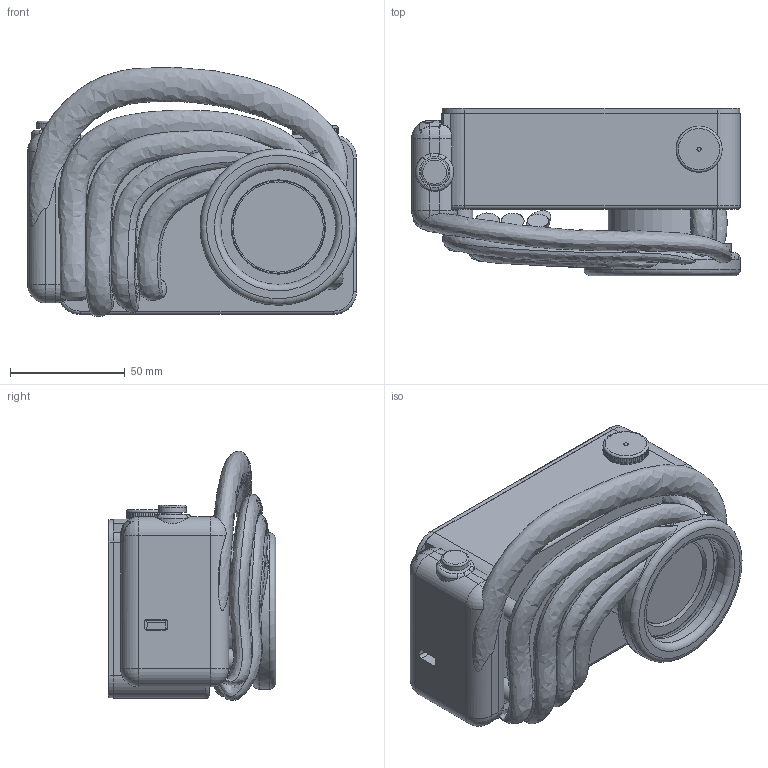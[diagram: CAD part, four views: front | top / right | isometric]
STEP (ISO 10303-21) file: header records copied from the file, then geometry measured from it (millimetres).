
FILE_DESCRIPTION(('Open CASCADE Model'),'2;1');
FILE_NAME('Open CASCADE Shape Model','2026-10-20T15:14:24',('Author'),( 'Open CASCADE'),'Open CASCADE STEP processor 7.8','Open CASCADE 7.8' ,'Unknown');
FILE_SCHEMA(('AUTOMOTIVE_DESIGN { 1 0 10303 214 1 1 1 1 }'));
Length unit declared in the file: millimetre
Products named in the file (19): Entropi_CAD_v03; 01_rib_cage; 02_chassis; 03_rear_cover; 04_esp32_carrier; 05_board_clamp; 06_optical_baffle; 07_shutter; 08_shutter_pin; 09_rear_dial; 10_io_plate; 12_lens_blank; 13_lens_blank_retainer; 14_dial_retainer; 15_shutter_return_flexure; 17_camera_saddle; 18_camera_clamp; 19_usb_retainer; 20_shutter_service_cover
Assembly tree (18 placements, depth 2):
  Entropi_CAD_v03
    01_rib_cage
    02_chassis
    03_rear_cover
    04_esp32_carrier
    05_board_clamp
    06_optical_baffle
    07_shutter
    08_shutter_pin
    09_rear_dial
    10_io_plate
    12_lens_blank
    13_lens_blank_retainer
    14_dial_retainer
    15_shutter_return_flexure
    17_camera_saddle
    18_camera_clamp
    19_usb_retainer
    20_shutter_service_cover
Bounding box: 143 x 72.9 x 108.42 mm (x, y, z)
Volume: 234360.9 mm3; surface area: 142197.7 mm2
Topology: 18 solids, 18 shells, 765 faces, 1926 edges, 1212 vertices
Faces by surface type: plane 426, cylinder 263, sphere 32, bspline 22, torus 20, extrusion 2
Full cylindrical faces by diameter (mm): 1.8 x28, 2.1 x1, 2.4 x25, 4.2 x1, 4.4 x2, 4.6 x2, 5 x4, 6 x1, 6.6 x1, 7.2 x2, 7.8 x1, 8.4 x1, 9 x7, 9.2 x2, 12 x1, 14.6 x1, 15 x1, 17 x1, 20 x1, 39.2 x1, 40.4 x1, 41 x1, 47 x1, 47.6 x1, 50 x2, 68 x1
Entity records: 66682 total; most frequent: CARTESIAN_POINT 28521, DIRECTION 6947, ORIENTED_EDGE 3798, PCURVE 3798, DEFINITIONAL_REPRESENTATION 3798, VECTOR 3559, LINE 3557, EDGE_CURVE 1899
